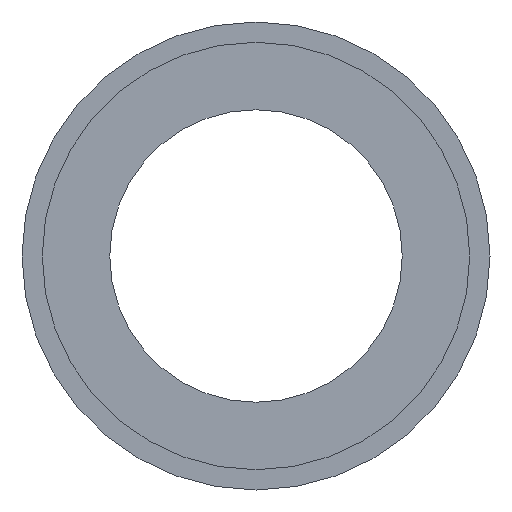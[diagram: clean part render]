
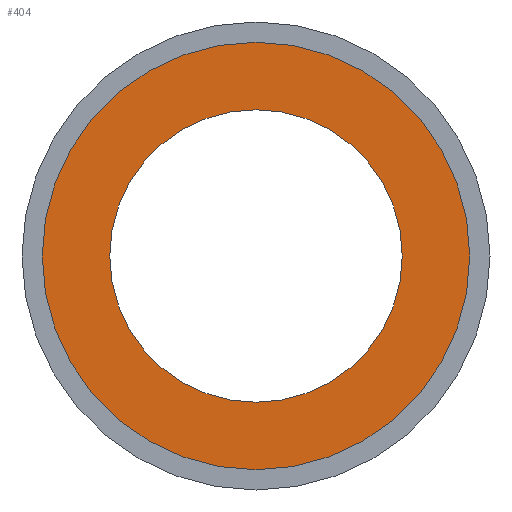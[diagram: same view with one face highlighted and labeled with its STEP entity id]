
A CAD part, front view. The second image highlights one B-rep face of the part: STEP entity #404.
In plain terms, the highlighted planar face has unit normal (0, -1, 0).
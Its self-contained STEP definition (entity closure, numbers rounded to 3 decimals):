
#8 = CIRCLE ( 'NONE', #1084, 47.5 ) ;
#30 = ORIENTED_EDGE ( 'NONE', *, *, #2625, .T. ) ;
#193 = ORIENTED_EDGE ( 'NONE', *, *, #2893, .F. ) ;
#213 = CARTESIAN_POINT ( 'NONE',  ( 0., -16.5, 0. ) ) ;
#404 = ADVANCED_FACE ( 'NONE', ( #677, #3398 ), #3046, .F. ) ;
#419 = DIRECTION ( 'NONE',  ( 0., -1., 0. ) ) ;
#576 = VERTEX_POINT ( 'NONE', #1477 ) ;
#677 = FACE_BOUND ( 'NONE', #3202, .T. ) ;
#760 = CARTESIAN_POINT ( 'NONE',  ( 0., -16.5, 0. ) ) ;
#781 = DIRECTION ( 'NONE',  ( 0., 0., -1. ) ) ;
#920 = CARTESIAN_POINT ( 'NONE',  ( 0., -16.5, -47.5 ) ) ;
#1084 = AXIS2_PLACEMENT_3D ( 'NONE', #760, #1637, #1972 ) ;
#1169 = DIRECTION ( 'NONE',  ( 0., -1., 0. ) ) ;
#1188 = CARTESIAN_POINT ( 'NONE',  ( 0., -16.5, 0. ) ) ;
#1477 = CARTESIAN_POINT ( 'NONE',  ( 0., -16.5, 32.5 ) ) ;
#1588 = VERTEX_POINT ( 'NONE', #2485 ) ;
#1635 = AXIS2_PLACEMENT_3D ( 'NONE', #1670, #419, #781 ) ;
#1637 = DIRECTION ( 'NONE',  ( 0., -1., 0. ) ) ;
#1670 = CARTESIAN_POINT ( 'NONE',  ( 0., -16.5, 0. ) ) ;
#1815 = DIRECTION ( 'NONE',  ( 0., 0., 1. ) ) ;
#1972 = DIRECTION ( 'NONE',  ( 0., 0., -1. ) ) ;
#2399 = ORIENTED_EDGE ( 'NONE', *, *, #3399, .F. ) ;
#2485 = CARTESIAN_POINT ( 'NONE',  ( 0., -16.5, -32.5 ) ) ;
#2512 = CIRCLE ( 'NONE', #1635, 32.5 ) ;
#2625 = EDGE_CURVE ( 'NONE', #3404, #3223, #3184, .T. ) ;
#2893 = EDGE_CURVE ( 'NONE', #1588, #576, #2512, .T. ) ;
#3046 = PLANE ( 'NONE',  #3305 ) ;
#3077 = CARTESIAN_POINT ( 'NONE',  ( 0., -16.5, 32.5 ) ) ;
#3131 = AXIS2_PLACEMENT_3D ( 'NONE', #213, #1169, #3390 ) ;
#3184 = CIRCLE ( 'NONE', #3131, 47.5 ) ;
#3202 = EDGE_LOOP ( 'NONE', ( #193, #2399 ) ) ;
#3223 = VERTEX_POINT ( 'NONE', #4087 ) ;
#3305 = AXIS2_PLACEMENT_3D ( 'NONE', #3077, #3386, #1815 ) ;
#3362 = AXIS2_PLACEMENT_3D ( 'NONE', #1188, #3416, #3723 ) ;
#3386 = DIRECTION ( 'NONE',  ( 0., 1., 0. ) ) ;
#3390 = DIRECTION ( 'NONE',  ( 0., 0., -1. ) ) ;
#3398 = FACE_OUTER_BOUND ( 'NONE', #4015, .T. ) ;
#3399 = EDGE_CURVE ( 'NONE', #576, #1588, #3750, .T. ) ;
#3404 = VERTEX_POINT ( 'NONE', #920 ) ;
#3416 = DIRECTION ( 'NONE',  ( 0., -1., 0. ) ) ;
#3686 = ORIENTED_EDGE ( 'NONE', *, *, #4027, .T. ) ;
#3723 = DIRECTION ( 'NONE',  ( 0., 0., -1. ) ) ;
#3750 = CIRCLE ( 'NONE', #3362, 32.5 ) ;
#4015 = EDGE_LOOP ( 'NONE', ( #30, #3686 ) ) ;
#4027 = EDGE_CURVE ( 'NONE', #3223, #3404, #8, .T. ) ;
#4087 = CARTESIAN_POINT ( 'NONE',  ( 0., -16.5, 47.5 ) ) ;
